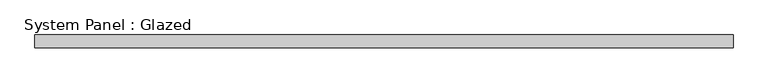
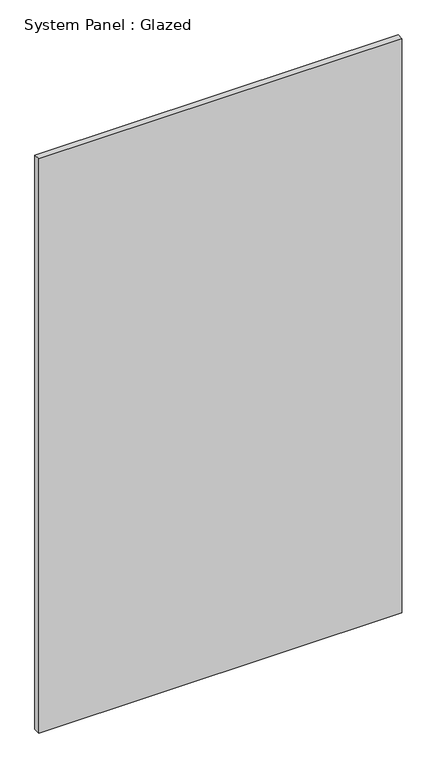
"""IFC4 building model written with IfcOpenShell, lengths in millimetres: plate geometry, System Panel : Glazed."""

from ifc_helpers import new_model, si_unit, origin, origin_with_axes, place, context, project, spatial, polyline, outline, extrude, source, transform, mapped, element, save


def system_panel_glazed_76e4750d(model_context):
    return source(origin(), model_context, "Body", "SweptSolid", [
        extrude(outline(polyline([(691.35625, 19.05), (-691.35625, 19.05), (-691.35625, 44.45), (691.35625, 44.45), (691.35625, 19.05)])), origin_with_axes(), (0.0, 0.0, 1.0), 2311.4),
    ])


if __name__ == "__main__":
    model = new_model("IFC4")
    model_context = context("Model", 3, world=origin())
    ifc_project = project(units=[si_unit("LENGTHUNIT", "METRE", prefix="MILLI")], contexts=[model_context])
    site = spatial("IfcSite", under=ifc_project)
    building = spatial("IfcBuilding", under=site)
    placement = place(None, origin())
    system_panel_glazed_shape = system_panel_glazed_76e4750d(model_context)
    element("IfcPlate", 1, ObjectType="System Panel : Glazed", at=placement, inside=building, context=model_context, shape_type="MappedRepresentation", body=[
        mapped(system_panel_glazed_shape, transform((0.0, 0.0, 0.0), x_axis=(1.0, 0.0, 0.0), y_axis=(0.0, 1.0, 0.0), z_axis=(0.0, 0.0, 1.0))),
    ])
    save(model, "model.ifc")
